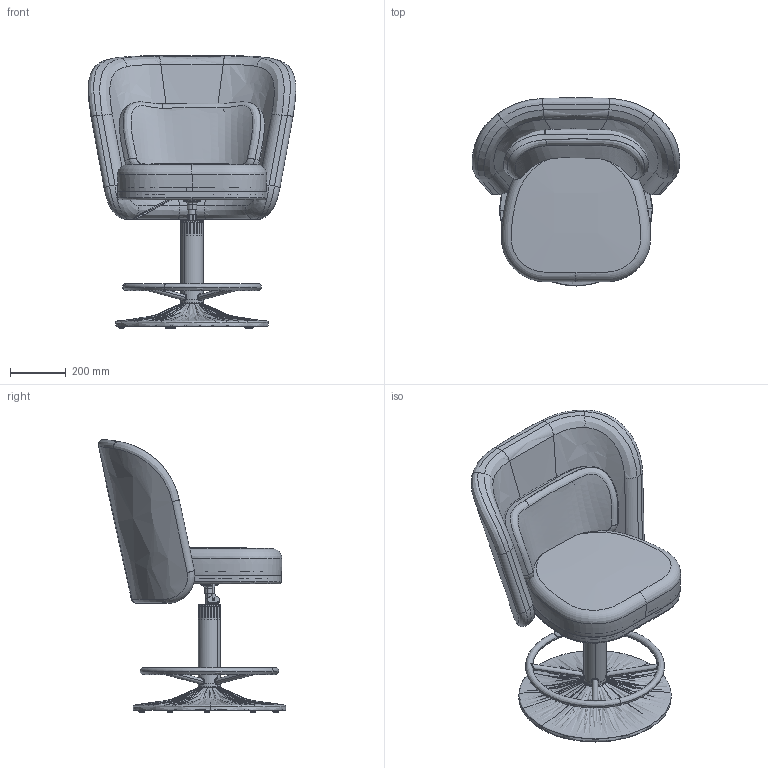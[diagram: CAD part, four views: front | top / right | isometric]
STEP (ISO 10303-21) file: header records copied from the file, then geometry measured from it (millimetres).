
FILE_DESCRIPTION(/* description */ (''),/* implementation_level */ '2;1');
FILE_NAME(/* name */ 'MOON',/* time_stamp */ '2025-09-17T14:16:22+02:00',/* author */ (''),/* organization */ (''),/* preprocessor_version */ 'ST-DEVELOPER v19.2',/* originating_system */ 'Rhino 8.23',/* authorisation */ '');
FILE_SCHEMA (('CONFIG_CONTROL_DESIGN'));
Products named in the file (1): Document
Bounding box: 748.11 x 675.72 x 982.64 mm (x, y, z)
Volume: 29616794.6 mm3; surface area: 4217710.2 mm2
Topology: 28 solids, 31 shells, 2464 faces, 6876 edges, 4490 vertices
Faces by surface type: plane 2033, bspline 308, cylinder 123
Entity records: 174046 total; most frequent: CARTESIAN_POINT 126757, ORIENTED_EDGE 13733, EDGE_CURVE 6874, B_SPLINE_CURVE_WITH_KNOTS 5976, VERTEX_POINT 4485, DIRECTION 2926, EDGE_LOOP 2543, AXIS2_PLACEMENT_3D 2541
